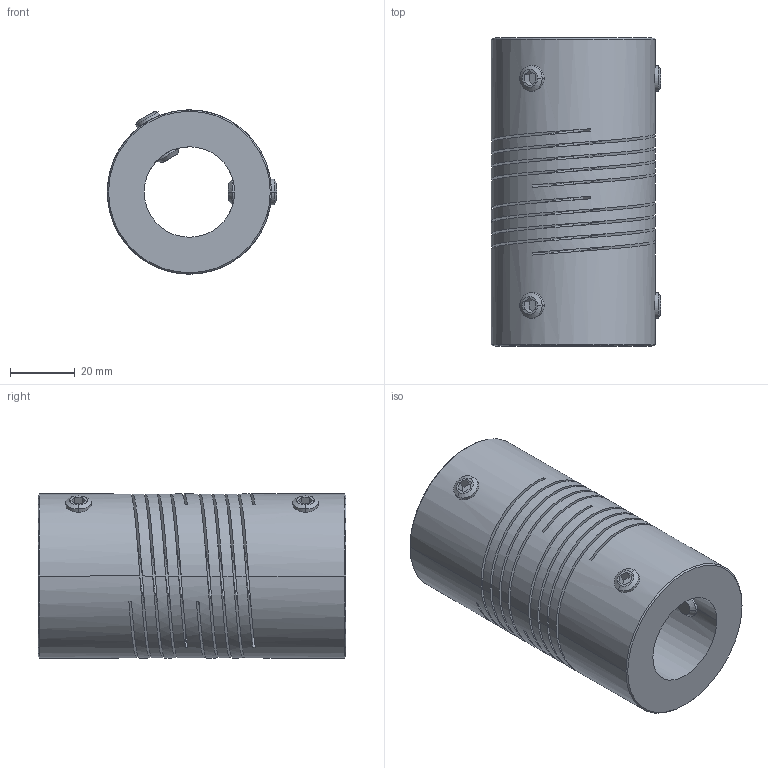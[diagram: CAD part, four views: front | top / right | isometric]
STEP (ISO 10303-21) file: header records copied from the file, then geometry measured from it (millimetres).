
FILE_DESCRIPTION((''),'2;1');
FILE_NAME('726_51_ASM','2006-12-05T',('Gary Melling'),(''),'PRO/ENGINEER BY PARAMETRIC TECHNOLOGY CORPORATION, 2006240','PRO/ENGINEER BY PARAMETRIC TECHNOLOGY CORPORATION, 2006240','');
FILE_SCHEMA(('CONFIG_CONTROL_DESIGN'));
Length unit declared in the file: millimetre
Products named in the file (3): 726_51; GS_8S; 726_51_ASM
Assembly tree (5 placements, depth 2):
  726_51_ASM
    726_51
    GS_8S  x4
Bounding box: 52.4 x 95.3 x 50.8 mm (x, y, z)
Volume: 123345.9 mm3; surface area: 51510.1 mm2
Topology: 5 solids, 5 shells, 132 faces, 364 edges, 232 vertices
Faces by surface type: plane 52, cylinder 48, cone 20, bspline 12
Entity records: 5474 total; most frequent: CARTESIAN_POINT 3175, ORIENTED_EDGE 536, DIRECTION 354, EDGE_CURVE 268, VERTEX_POINT 172, VECTOR 132, LINE 132, AXIS2_PLACEMENT_3D 111
